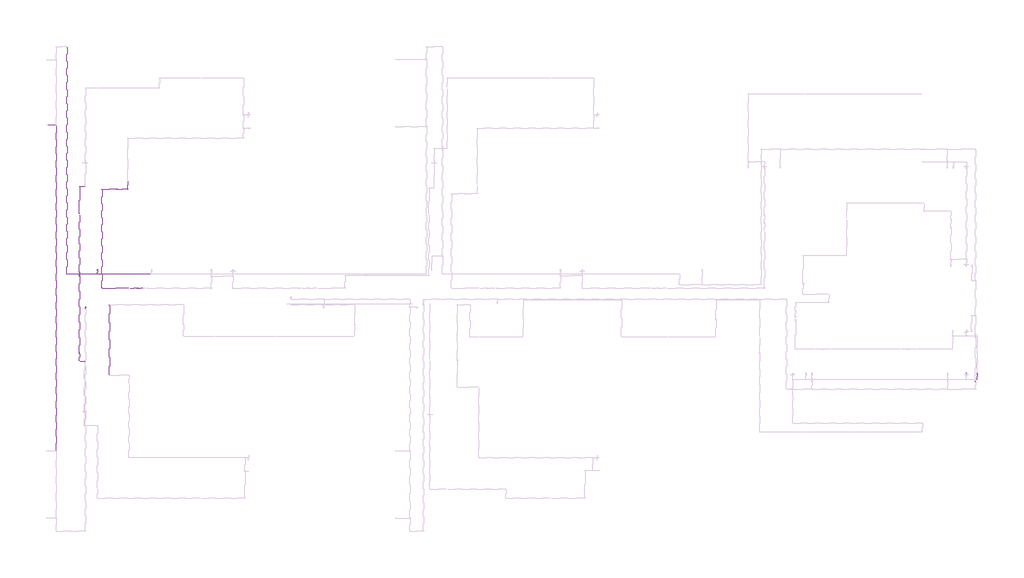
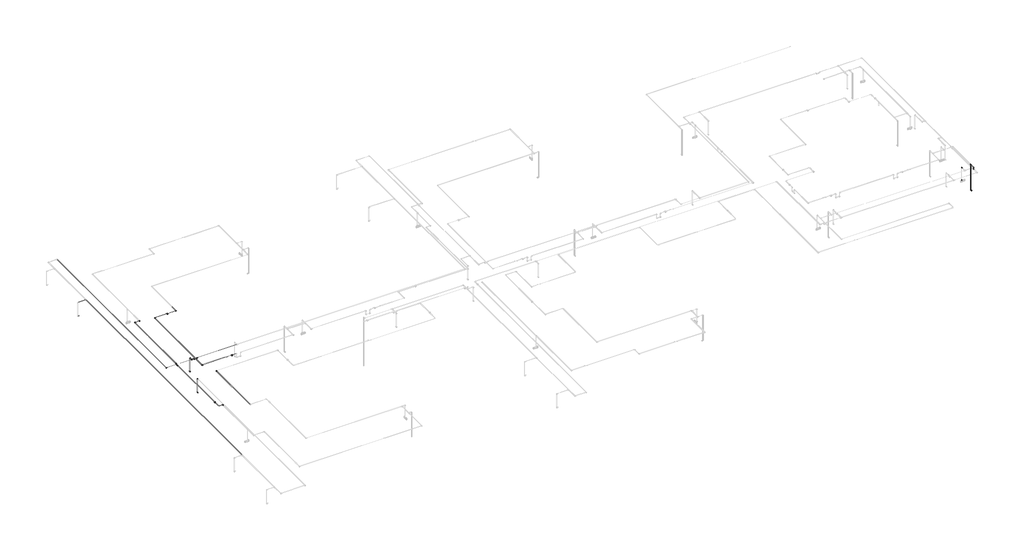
# One storey, part 4 of 13: 35 cable carrier segments, 27 cable carrier fittings, 3 alarms.
"""IFC4 building model written with IfcOpenShell, lengths in millimetres."""

from ifc_helpers import new_model, si_unit, point, frame, frame_2d, origin, place, context, project, spatial, circle_curve, trimmed, segment, composite_curve, outline, extrude, transform, mapped, element, save
from components import alarm_a2247946, cable_carrier_fitting_69f1a801, cable_carrier_fitting_8122f9af, cable_carrier_fitting_8fd13dfc

model = new_model("IFC4")

# Units and contexts
model_context = context("Model", 3, world=origin())
ifc_project = project(units=[si_unit("LENGTHUNIT", "METRE", prefix="MILLI")], contexts=[model_context])

# Site, building, storey
site = spatial("IfcSite", under=ifc_project)
building = spatial("IfcBuilding", under=site)
storey = spatial("IfcBuildingStorey", under=building, Name="2 этаж", Elevation=3500.0)

# Alarms
placement = place(None, origin())
alarm_shape = alarm_a2247946(model_context)
element("IfcAlarm", 1, ObjectType="RBZ_ИзоляторШлейфа_Рубеж_ИЗ-1_прот.R3(плоскость) : ИЗ-1 прот.R3", at=placement, inside=storey, context=model_context, shape_type="MappedRepresentation", body=[
    mapped(alarm_shape, transform((-32282.8004175, 5164.6370105, 6997.7), x_axis=(1.0, 0.0, 0.0), y_axis=(0.0, 1.0, 0.0), z_axis=(0.0, 0.0, 1.0))),
])
element("IfcAlarm", 2, ObjectType="RBZ_ИзоляторШлейфа_Рубеж_ИЗ-1_прот.R3(плоскость) : ИЗ-1 прот.R3", at=placement, inside=storey, context=model_context, shape_type="MappedRepresentation", body=[
    mapped(alarm_shape, transform((-35892.3240021, 1119.4902423, 6995.4), x_axis=(1.0, 0.0, 0.0), y_axis=(0.0, 1.0, 0.0), z_axis=(0.0, 0.0, 1.0))),
])
element("IfcAlarm", 3, ObjectType="RBZ_ИзоляторШлейфа_Рубеж_ИЗ-1_прот.R3(плоскость) : ИЗ-1 прот.R3", at=placement, inside=storey, context=model_context, shape_type="MappedRepresentation", body=[
    mapped(alarm_shape, transform((-33572.3240021, 11298.1370105, 6997.7), x_axis=(1.0, 0.0, 0.0), y_axis=(0.0, 1.0, 0.0), z_axis=(0.0, 0.0, 1.0))),
])

# Cable carrier fittings
cable_carrier_fitting_shape = cable_carrier_fitting_69f1a801(model_context)
element("IfcCableCarrierFitting", 4, ObjectType="ADSK_Поворот_Минимальный размер : Неспецифицируемый", at=placement, inside=storey, context=model_context, shape_type="MappedRepresentation", body=[
    mapped(cable_carrier_fitting_shape, transform((-35584.8240021, 619.6370105, 6984.65), x_axis=(0.0, 1.0, 0.0), y_axis=(-1.0, 0.0, 0.0), z_axis=(0.0, 0.0, 1.0))),
])
element("IfcCableCarrierFitting", 5, ObjectType="ADSK_Поворот_Минимальный размер : Неспецифицируемый", at=placement, inside=storey, context=model_context, shape_type="MappedRepresentation", body=[
    mapped(cable_carrier_fitting_shape, transform((-35529.8240021, 11476.1370105, 6986.95), x_axis=(1.0, 0.0, 0.0), y_axis=(0.0, 1.0, 0.0), z_axis=(0.0, 0.0, 1.0))),
])
element("IfcCableCarrierFitting", 6, ObjectType="ADSK_Поворот_Минимальный размер : Неспецифицируемый", at=placement, inside=storey, context=model_context, shape_type="MappedRepresentation", body=[
    mapped(cable_carrier_fitting_shape, transform((-35892.3240021, 11476.1370105, 6986.95), x_axis=(-1.0, 0.0, 0.0), y_axis=(0.0, -1.0, 0.0), z_axis=(0.0, 0.0, 1.0))),
])
element("IfcCableCarrierFitting", 7, ObjectType="ADSK_Поворот_Минимальный размер : Неспецифицируемый", at=placement, inside=storey, context=model_context, shape_type="MappedRepresentation", body=[
    mapped(cable_carrier_fitting_shape, transform((-32907.3240021, 11298.1370105, 6986.95), x_axis=(1.0, 0.0, 0.0), y_axis=(0.0, 1.0, 0.0), z_axis=(0.0, 0.0, 1.0))),
])
element("IfcCableCarrierFitting", 8, ObjectType="ADSK_Поворот_Минимальный размер : Неспецифицируемый", at=placement, inside=storey, context=model_context, shape_type="MappedRepresentation", body=[
    mapped(cable_carrier_fitting_shape, transform((-34037.3240021, 4135.4271104, 6986.95), x_axis=(-1.0, 0.0, 0.0), y_axis=(0.0, -1.0, 0.0), z_axis=(0.0, 0.0, 1.0))),
])
element("IfcCableCarrierFitting", 9, ObjectType="ADSK_Поворот_Минимальный размер : Неспецифицируемый", at=placement, inside=storey, context=model_context, shape_type="MappedRepresentation", body=[
    mapped(cable_carrier_fitting_shape, transform((-34507.3240021, 5164.6370105, 6986.95), x_axis=(0.0, -1.0, 0.0), y_axis=(1.0, 0.0, 0.0), z_axis=(0.0, 0.0, 1.0))),
])
element("IfcCableCarrierFitting", 10, ObjectType="ADSK_Поворот_Минимальный размер : Неспецифицируемый", at=placement, inside=storey, context=model_context, shape_type="MappedRepresentation", body=[
    mapped(cable_carrier_fitting_shape, transform((-34507.3240021, 11298.1370105, 6986.95), x_axis=(-1.0, 0.0, 0.0), y_axis=(0.0, -1.0, 0.0), z_axis=(0.0, 0.0, 1.0))),
])
element("IfcCableCarrierFitting", 11, ObjectType="ADSK_Поворот_Минимальный размер : Неспецифицируемый", at=placement, inside=storey, context=model_context, shape_type="MappedRepresentation", body=[
    mapped(cable_carrier_fitting_shape, transform((-36669.8240021, 6037.6221207, 6990.0), x_axis=(0.0, -1.0, 0.0), y_axis=(1.0, 0.0, 0.0), z_axis=(0.0, 0.0, 1.0))),
])
element("IfcCableCarrierFitting", 12, ObjectType="ADSK_Поворот_Минимальный размер : Неспецифицируемый", at=placement, inside=storey, context=model_context, shape_type="MappedRepresentation", body=[
    mapped(cable_carrier_fitting_shape, transform((-34782.7240021, 6252.4372049, 5897.4861504), x_axis=(0.0, -1.0, 0.0), y_axis=(0.0, 0.0, 1.0), z_axis=(-1.0, 0.0, 0.0))),
])
element("IfcCableCarrierFitting", 13, ObjectType="ADSK_Поворот_Минимальный размер : Неспецифицируемый", at=placement, inside=storey, context=model_context, shape_type="MappedRepresentation", body=[
    mapped(cable_carrier_fitting_shape, transform((-34782.7240021, 6252.4372049, 6990.0), x_axis=(0.0, 0.0, 1.0), y_axis=(0.0, -1.0, 0.0), z_axis=(1.0, 0.0, 0.0))),
])
element("IfcCableCarrierFitting", 14, ObjectType="ADSK_Поворот_Минимальный размер : Неспецифицируемый", at=placement, inside=storey, context=model_context, shape_type="MappedRepresentation", body=[
    mapped(cable_carrier_fitting_shape, transform((-35532.7240021, 3996.8368161, 5897.4861504), x_axis=(0.0, 1.0, 0.0), y_axis=(0.0, 0.0, 1.0), z_axis=(1.0, 0.0, 0.0))),
])
element("IfcCableCarrierFitting", 15, ObjectType="ADSK_Поворот_Минимальный размер : Неспецифицируемый", at=placement, inside=storey, context=model_context, shape_type="MappedRepresentation", body=[
    mapped(cable_carrier_fitting_shape, transform((-35532.7240021, 3996.8368161, 6990.0), x_axis=(0.0, 0.0, 1.0), y_axis=(0.0, -1.0, 0.0), z_axis=(1.0, 0.0, 0.0))),
])
element("IfcCableCarrierFitting", 16, ObjectType="ADSK_Поворот_Минимальный размер : Неспецифицируемый", at=placement, inside=storey, context=model_context, shape_type="MappedRepresentation", body=[
    mapped(cable_carrier_fitting_shape, transform((19112.6759979, -98.1631839, 6000.0), x_axis=(0.0, 1.0, 0.0), y_axis=(0.0, 0.0, 1.0), z_axis=(1.0, 0.0, 0.0))),
])
element("IfcCableCarrierFitting", 17, ObjectType="ADSK_Поворот_Минимальный размер : Неспецифицируемый", at=placement, inside=storey, context=model_context, shape_type="MappedRepresentation", body=[
    mapped(cable_carrier_fitting_shape, transform((19112.6759979, -98.1631839, 6986.95), x_axis=(0.0, 0.0, 1.0), y_axis=(0.0, -1.0, 0.0), z_axis=(1.0, 0.0, 0.0))),
])
element("IfcCableCarrierFitting", 18, ObjectType="ADSK_Поворот_Минимальный размер : Неспецифицируемый", at=placement, inside=storey, context=model_context, shape_type="MappedRepresentation", body=[
    mapped(cable_carrier_fitting_shape, transform((19782.6759979, -505.3629895, 6986.95), x_axis=(1.0, 0.0, 0.0), y_axis=(0.0, 1.0, 0.0), z_axis=(0.0, 0.0, 1.0))),
])
element("IfcCableCarrierFitting", 19, ObjectType="ADSK_Поворот_Минимальный размер : Неспецифицируемый", at=placement, inside=storey, context=model_context, shape_type="MappedRepresentation", body=[
    mapped(cable_carrier_fitting_shape, transform((19782.6759979, -98.1631839, 5000.0), x_axis=(0.0, 1.0, 0.0), y_axis=(0.0, 0.0, 1.0), z_axis=(1.0, 0.0, 0.0))),
])
cable_carrier_fitting_2_shape = cable_carrier_fitting_8122f9af(model_context)
element("IfcCableCarrierFitting", 20, ObjectType="ADSK_Поворот_Минимальный размер : Неспецифицируемый", at=placement, inside=storey, context=model_context, shape_type="MappedRepresentation", body=[
    mapped(cable_carrier_fitting_2_shape, transform((-34623.8962734, 6037.6221207, 6990.0), x_axis=(1.0, 0.0, 0.0), y_axis=(0.0, 0.0, -1.0), z_axis=(0.0, 1.0, 0.0))),
])
element("IfcCableCarrierFitting", 21, ObjectType="ADSK_Поворот_Минимальный размер : Неспецифицируемый", at=placement, inside=storey, context=model_context, shape_type="MappedRepresentation", body=[
    mapped(cable_carrier_fitting_2_shape, transform((-34573.8962734, 6037.6221207, 6940.0), x_axis=(0.7071067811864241, 0.0, -0.7071067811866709), y_axis=(0.7071067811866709, 0.0, 0.7071067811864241), z_axis=(0.0, -1.0, 0.0))),
])
element("IfcCableCarrierFitting", 22, ObjectType="ADSK_Поворот_Минимальный размер : Неспецифицируемый", at=placement, inside=storey, context=model_context, shape_type="MappedRepresentation", body=[
    mapped(cable_carrier_fitting_2_shape, transform((-34440.7517309, 6037.6221207, 6940.0), x_axis=(1.0, 0.0, 0.0), y_axis=(0.0, 0.0, 1.0), z_axis=(0.0, -1.0, 0.0))),
])
element("IfcCableCarrierFitting", 23, ObjectType="ADSK_Поворот_Минимальный размер : Неспецифицируемый", at=placement, inside=storey, context=model_context, shape_type="MappedRepresentation", body=[
    mapped(cable_carrier_fitting_2_shape, transform((-34390.7517309, 6037.6221207, 6990.0), x_axis=(0.7071067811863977, 0.0, 0.7071067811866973), y_axis=(0.7071067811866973, 0.0, -0.7071067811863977), z_axis=(0.0, 1.0, 0.0))),
])
element("IfcCableCarrierFitting", 24, ObjectType="ADSK_Поворот_Минимальный размер : Неспецифицируемый", at=placement, inside=storey, context=model_context, shape_type="MappedRepresentation", body=[
    mapped(cable_carrier_fitting_2_shape, transform((-35892.3240021, 6154.1943919, 6990.0), x_axis=(0.0, -1.0, 0.0), y_axis=(0.0, 0.0, -1.0), z_axis=(1.0, 0.0, 0.0))),
])
element("IfcCableCarrierFitting", 25, ObjectType="ADSK_Поворот_Минимальный размер : Неспецифицируемый", at=placement, inside=storey, context=model_context, shape_type="MappedRepresentation", body=[
    mapped(cable_carrier_fitting_2_shape, transform((-35892.3240021, 6104.1943919, 6940.0), x_axis=(0.0, -0.7071067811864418, -0.7071067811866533), y_axis=(0.0, -0.7071067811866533, 0.7071067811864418), z_axis=(-1.0, 0.0, 0.0))),
])
element("IfcCableCarrierFitting", 26, ObjectType="ADSK_Поворот_Минимальный размер : Неспецифицируемый", at=placement, inside=storey, context=model_context, shape_type="MappedRepresentation", body=[
    mapped(cable_carrier_fitting_2_shape, transform((-35892.3240021, 5971.0498494, 6940.0), x_axis=(0.0, -1.0, 0.0), y_axis=(0.0, 0.0, 1.0), z_axis=(-1.0, 0.0, 0.0))),
])
element("IfcCableCarrierFitting", 27, ObjectType="ADSK_Поворот_Минимальный размер : Неспецифицируемый", at=placement, inside=storey, context=model_context, shape_type="MappedRepresentation", body=[
    mapped(cable_carrier_fitting_2_shape, transform((-35892.3240021, 5921.0498494, 6990.0), x_axis=(0.0, -0.7071067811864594, 0.7071067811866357), y_axis=(0.0, -0.7071067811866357, -0.7071067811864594), z_axis=(1.0, 0.0, 0.0))),
])
element("IfcCableCarrierFitting", 28, ObjectType="ADSK_Поворот_Минимальный размер : Неспецифицируемый", at=placement, inside=storey, context=model_context, shape_type="MappedRepresentation", body=[
    mapped(cable_carrier_fitting_2_shape, transform((19682.6759979, -621.9352607, 6990.0), x_axis=(0.0, -0.7071067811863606, 0.7071067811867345), y_axis=(0.0, -0.7071067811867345, -0.7071067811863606), z_axis=(1.0, 0.0, 0.0))),
])
cable_carrier_fitting_3_shape = cable_carrier_fitting_8fd13dfc(model_context)
element("IfcCableCarrierFitting", 29, ObjectType="ADSK_Тройник : ПВХ", at=placement, inside=storey, context=model_context, shape_type="MappedRepresentation", body=[
    mapped(cable_carrier_fitting_3_shape, transform((-34782.7240021, 6037.6221207, 6990.0), x_axis=(-1.0, 0.0, 0.0), y_axis=(0.0, -1.0, 0.0), z_axis=(0.0, 0.0, 1.0))),
])
element("IfcCableCarrierFitting", 30, ObjectType="ADSK_Тройник : ПВХ", at=placement, inside=storey, context=model_context, shape_type="MappedRepresentation", body=[
    mapped(cable_carrier_fitting_3_shape, transform((19782.6759979, -98.1631839, 6986.95), x_axis=(0.0, -1.0, 0.0), y_axis=(0.0, 0.0, 1.0), z_axis=(-1.0, 0.0, 0.0))),
])

# Cable carrier segments
element("IfcCableCarrierSegment", 31, ObjectType="Гофрированная труба", at=placement, inside=storey, context=model_context, shape_type="SweptSolid", body=[
    extrude(outline(composite_curve([segment(trimmed(circle_curve(frame_2d((619.6370105, 6984.65)), 10.0), [point((609.6370105, 6984.65))], [point((619.6370105, 6994.65))], False, "CARTESIAN"), True, "CONTINUOUS"), segment(trimmed(circle_curve(frame_2d((619.6370105, 6984.65)), 10.0), [point((619.6370105, 6994.65))], [point((629.6370105, 6984.65))], False, "CARTESIAN"), True, "CONTINUOUS"), segment(trimmed(circle_curve(frame_2d((619.6370105, 6984.65)), 10.0), [point((629.6370105, 6984.65))], [point((619.6370105, 6974.65))], False, "CARTESIAN"), True, "CONTINUOUS"), segment(trimmed(circle_curve(frame_2d((619.6370105, 6984.65)), 10.0), [point((619.6370105, 6974.65))], [point((609.6370105, 6984.65))], False, "CARTESIAN"), True, "CONTINUOUS")], self_intersect=False)), frame((-35845.8240021, 0.0, 0.0), z_axis=(1.0, 0.0, 0.0), x_axis=(0.0, 1.0, 0.0)), (0.0, 0.0, 1.0), 240.0),
])
element("IfcCableCarrierSegment", 32, ObjectType="Гофрированная труба", at=placement, inside=storey, context=model_context, shape_type="SweptSolid", body=[
    extrude(outline(composite_curve([segment(trimmed(circle_curve(frame_2d((6940.0, -35892.3240021)), 10.0), [point((6940.0, -35902.3240021))], [point((6930.0, -35892.3240021))], False, "CARTESIAN"), True, "CONTINUOUS"), segment(trimmed(circle_curve(frame_2d((6940.0, -35892.3240021)), 10.0), [point((6930.0, -35892.3240021))], [point((6940.0, -35882.3240021))], False, "CARTESIAN"), True, "CONTINUOUS"), segment(trimmed(circle_curve(frame_2d((6940.0, -35892.3240021)), 10.0), [point((6940.0, -35882.3240021))], [point((6950.0, -35892.3240021))], False, "CARTESIAN"), True, "CONTINUOUS"), segment(trimmed(circle_curve(frame_2d((6940.0, -35892.3240021)), 10.0), [point((6950.0, -35892.3240021))], [point((6940.0, -35902.3240021))], False, "CARTESIAN"), True, "CONTINUOUS")], self_intersect=False)), frame((0.0, 5980.3341207, 0.0), z_axis=(0.0, 1.0, 0.0), x_axis=(0.0, 0.0, 1.0)), (0.0, 0.0, 1.0), 114.576),
])
element("IfcCableCarrierSegment", 33, ObjectType="Гофрированная труба", at=placement, inside=storey, context=model_context, shape_type="SweptSolid", body=[
    extrude(outline(composite_curve([segment(trimmed(circle_curve(frame_2d((6986.95, -35892.3240021)), 10.0), [point((6986.95, -35902.3240021))], [point((6976.95, -35892.3240021))], False, "CARTESIAN"), True, "CONTINUOUS"), segment(trimmed(circle_curve(frame_2d((6986.95, -35892.3240021)), 10.0), [point((6976.95, -35892.3240021))], [point((6986.95, -35882.3240021))], False, "CARTESIAN"), True, "CONTINUOUS"), segment(trimmed(circle_curve(frame_2d((6986.95, -35892.3240021)), 10.0), [point((6986.95, -35882.3240021))], [point((6996.95, -35892.3240021))], False, "CARTESIAN"), True, "CONTINUOUS"), segment(trimmed(circle_curve(frame_2d((6986.95, -35892.3240021)), 10.0), [point((6996.95, -35892.3240021))], [point((6986.95, -35902.3240021))], False, "CARTESIAN"), True, "CONTINUOUS")], self_intersect=False)), frame((0.0, 9776.1370105, 0.0), z_axis=(0.0, 1.0, 0.0), x_axis=(0.0, 0.0, 1.0)), (0.0, 0.0, 1.0), 1679.0),
])
element("IfcCableCarrierSegment", 34, ObjectType="Гофрированная труба", at=placement, inside=storey, context=model_context, shape_type="SweptSolid", body=[
    extrude(outline(composite_curve([segment(trimmed(circle_curve(frame_2d((11476.1370105, 6986.95)), 10.0), [point((11486.1370105, 6986.95))], [point((11476.1370105, 6976.95))], False, "CARTESIAN"), True, "CONTINUOUS"), segment(trimmed(circle_curve(frame_2d((11476.1370105, 6986.95)), 10.0), [point((11476.1370105, 6976.95))], [point((11466.1370105, 6986.95))], False, "CARTESIAN"), True, "CONTINUOUS"), segment(trimmed(circle_curve(frame_2d((11476.1370105, 6986.95)), 10.0), [point((11466.1370105, 6986.95))], [point((11476.1370105, 6996.95))], False, "CARTESIAN"), True, "CONTINUOUS"), segment(trimmed(circle_curve(frame_2d((11476.1370105, 6986.95)), 10.0), [point((11476.1370105, 6996.95))], [point((11486.1370105, 6986.95))], False, "CARTESIAN"), True, "CONTINUOUS")], self_intersect=False)), frame((-35871.3240021, 0.0, 0.0), z_axis=(1.0, 0.0, 0.0), x_axis=(0.0, 1.0, 0.0)), (0.0, 0.0, 1.0), 320.5),
])
element("IfcCableCarrierSegment", 35, ObjectType="Гофрированная труба", at=placement, inside=storey, context=model_context, shape_type="SweptSolid", body=[
    extrude(outline(composite_curve([segment(trimmed(circle_curve(frame_2d((6986.95, -32907.3240021)), 10.0), [point((6986.95, -32917.3240021))], [point((6976.95, -32907.3240021))], False, "CARTESIAN"), True, "CONTINUOUS"), segment(trimmed(circle_curve(frame_2d((6986.95, -32907.3240021)), 10.0), [point((6976.95, -32907.3240021))], [point((6986.95, -32897.3240021))], False, "CARTESIAN"), True, "CONTINUOUS"), segment(trimmed(circle_curve(frame_2d((6986.95, -32907.3240021)), 10.0), [point((6986.95, -32897.3240021))], [point((6996.95, -32907.3240021))], False, "CARTESIAN"), True, "CONTINUOUS"), segment(trimmed(circle_curve(frame_2d((6986.95, -32907.3240021)), 10.0), [point((6996.95, -32907.3240021))], [point((6986.95, -32917.3240021))], False, "CARTESIAN"), True, "CONTINUOUS")], self_intersect=False)), frame((0.0, 11319.1370105, 0.0), z_axis=(0.0, 1.0, 0.0), x_axis=(0.0, 0.0, 1.0)), (0.0, 0.0, 1.0), 479.0),
])
element("IfcCableCarrierSegment", 36, ObjectType="Гофрированная труба", at=placement, inside=storey, context=model_context, shape_type="SweptSolid", body=[
    extrude(outline(composite_curve([segment(trimmed(circle_curve(frame_2d((11298.1370105, 6986.95)), 10.0), [point((11288.1370105, 6986.95))], [point((11298.1370105, 6996.95))], False, "CARTESIAN"), True, "CONTINUOUS"), segment(trimmed(circle_curve(frame_2d((11298.1370105, 6986.95)), 10.0), [point((11298.1370105, 6996.95))], [point((11308.1370105, 6986.95))], False, "CARTESIAN"), True, "CONTINUOUS"), segment(trimmed(circle_curve(frame_2d((11298.1370105, 6986.95)), 10.0), [point((11308.1370105, 6986.95))], [point((11298.1370105, 6976.95))], False, "CARTESIAN"), True, "CONTINUOUS"), segment(trimmed(circle_curve(frame_2d((11298.1370105, 6986.95)), 10.0), [point((11298.1370105, 6976.95))], [point((11288.1370105, 6986.95))], False, "CARTESIAN"), True, "CONTINUOUS")], self_intersect=False)), frame((-34486.3240021, 0.0, 0.0), z_axis=(1.0, 0.0, 0.0), x_axis=(0.0, 1.0, 0.0)), (0.0, 0.0, 1.0), 888.0),
])
element("IfcCableCarrierSegment", 37, ObjectType="Гофрированная труба", at=placement, inside=storey, context=model_context, shape_type="SweptSolid", body=[
    extrude(outline(composite_curve([segment(trimmed(circle_curve(frame_2d((6986.95, -34507.3240021)), 10.0), [point((6986.95, -34497.3240021))], [point((6996.95, -34507.3240021))], False, "CARTESIAN"), True, "CONTINUOUS"), segment(trimmed(circle_curve(frame_2d((6986.95, -34507.3240021)), 10.0), [point((6996.95, -34507.3240021))], [point((6986.95, -34517.3240021))], False, "CARTESIAN"), True, "CONTINUOUS"), segment(trimmed(circle_curve(frame_2d((6986.95, -34507.3240021)), 10.0), [point((6986.95, -34517.3240021))], [point((6976.95, -34507.3240021))], False, "CARTESIAN"), True, "CONTINUOUS"), segment(trimmed(circle_curve(frame_2d((6986.95, -34507.3240021)), 10.0), [point((6976.95, -34507.3240021))], [point((6986.95, -34497.3240021))], False, "CARTESIAN"), True, "CONTINUOUS")], self_intersect=False)), frame((0.0, 5185.6370105, 0.0), z_axis=(0.0, 1.0, 0.0), x_axis=(0.0, 0.0, 1.0)), (0.0, 0.0, 1.0), 6091.5),
])
element("IfcCableCarrierSegment", 38, ObjectType="Гофрированная труба", at=placement, inside=storey, context=model_context, shape_type="SweptSolid", body=[
    extrude(outline(composite_curve([segment(trimmed(circle_curve(frame_2d((6986.95, -34037.3240021)), 10.0), [point((6986.95, -34027.3240021))], [point((6996.95, -34037.3240021))], False, "CARTESIAN"), True, "CONTINUOUS"), segment(trimmed(circle_curve(frame_2d((6986.95, -34037.3240021)), 10.0), [point((6996.95, -34037.3240021))], [point((6986.95, -34047.3240021))], False, "CARTESIAN"), True, "CONTINUOUS"), segment(trimmed(circle_curve(frame_2d((6986.95, -34037.3240021)), 10.0), [point((6986.95, -34047.3240021))], [point((6976.95, -34037.3240021))], False, "CARTESIAN"), True, "CONTINUOUS"), segment(trimmed(circle_curve(frame_2d((6986.95, -34037.3240021)), 10.0), [point((6976.95, -34037.3240021))], [point((6986.95, -34027.3240021))], False, "CARTESIAN"), True, "CONTINUOUS")], self_intersect=False)), frame((0.0, -212.8629895, 0.0), z_axis=(0.0, 1.0, 0.0), x_axis=(0.0, 0.0, 1.0)), (0.0, 0.0, 1.0), 4327.2900999),
])
element("IfcCableCarrierSegment", 39, ObjectType="Гофрированная труба", at=placement, inside=storey, context=model_context, shape_type="SweptSolid", body=[
    extrude(outline(composite_curve([segment(trimmed(circle_curve(frame_2d((5164.6370105, 6986.95)), 10.0), [point((5174.6370105, 6986.95))], [point((5164.6370105, 6976.95))], False, "CARTESIAN"), True, "CONTINUOUS"), segment(trimmed(circle_curve(frame_2d((5164.6370105, 6986.95)), 10.0), [point((5164.6370105, 6976.95))], [point((5154.6370105, 6986.95))], False, "CARTESIAN"), True, "CONTINUOUS"), segment(trimmed(circle_curve(frame_2d((5164.6370105, 6986.95)), 10.0), [point((5154.6370105, 6986.95))], [point((5164.6370105, 6996.95))], False, "CARTESIAN"), True, "CONTINUOUS"), segment(trimmed(circle_curve(frame_2d((5164.6370105, 6986.95)), 10.0), [point((5164.6370105, 6996.95))], [point((5174.6370105, 6986.95))], False, "CARTESIAN"), True, "CONTINUOUS")], self_intersect=False)), frame((-34486.3240021, 0.0, 0.0), z_axis=(1.0, 0.0, 0.0), x_axis=(0.0, 1.0, 0.0)), (0.0, 0.0, 1.0), 1657.5),
])
element("IfcCableCarrierSegment", 40, ObjectType="Гофрированная труба", at=placement, inside=storey, context=model_context, shape_type="SweptSolid", body=[
    extrude(outline(composite_curve([segment(trimmed(circle_curve(frame_2d((5164.6370105, 6986.95)), 10.0), [point((5174.6370105, 6986.95))], [point((5164.6370105, 6976.95))], False, "CARTESIAN"), True, "CONTINUOUS"), segment(trimmed(circle_curve(frame_2d((5164.6370105, 6986.95)), 10.0), [point((5164.6370105, 6976.95))], [point((5154.6370105, 6986.95))], False, "CARTESIAN"), True, "CONTINUOUS"), segment(trimmed(circle_curve(frame_2d((5164.6370105, 6986.95)), 10.0), [point((5154.6370105, 6986.95))], [point((5164.6370105, 6996.95))], False, "CARTESIAN"), True, "CONTINUOUS"), segment(trimmed(circle_curve(frame_2d((5164.6370105, 6986.95)), 10.0), [point((5164.6370105, 6996.95))], [point((5174.6370105, 6986.95))], False, "CARTESIAN"), True, "CONTINUOUS")], self_intersect=False)), frame((-32735.8240021, 0.0, 0.0), z_axis=(1.0, 0.0, 0.0), x_axis=(0.0, 1.0, 0.0)), (0.0, 0.0, 1.0), 427.0235846),
])
element("IfcCableCarrierSegment", 41, ObjectType="Гофрированная труба", at=placement, inside=storey, context=model_context, shape_type="SweptSolid", body=[
    extrude(outline(composite_curve([segment(trimmed(circle_curve(frame_2d((5164.6370105, 6986.95)), 10.0), [point((5174.6370105, 6986.95))], [point((5164.6370105, 6976.95))], False, "CARTESIAN"), True, "CONTINUOUS"), segment(trimmed(circle_curve(frame_2d((5164.6370105, 6986.95)), 10.0), [point((5164.6370105, 6976.95))], [point((5154.6370105, 6986.95))], False, "CARTESIAN"), True, "CONTINUOUS"), segment(trimmed(circle_curve(frame_2d((5164.6370105, 6986.95)), 10.0), [point((5154.6370105, 6986.95))], [point((5164.6370105, 6996.95))], False, "CARTESIAN"), True, "CONTINUOUS"), segment(trimmed(circle_curve(frame_2d((5164.6370105, 6986.95)), 10.0), [point((5164.6370105, 6996.95))], [point((5174.6370105, 6986.95))], False, "CARTESIAN"), True, "CONTINUOUS")], self_intersect=False)), frame((-32256.8004175, 0.0, 0.0), z_axis=(1.0, 0.0, 0.0), x_axis=(0.0, 1.0, 0.0)), (0.0, 0.0, 1.0), 309.3001944),
])
element("IfcCableCarrierSegment", 42, ObjectType="Гофрированная труба", at=placement, inside=storey, context=model_context, shape_type="SweptSolid", body=[
    extrude(outline(composite_curve([segment(trimmed(circle_curve(frame_2d((6984.65, -35892.3240021)), 10.0), [point((6984.65, -35882.3240021))], [point((6994.65, -35892.3240021))], False, "CARTESIAN"), True, "CONTINUOUS"), segment(trimmed(circle_curve(frame_2d((6984.65, -35892.3240021)), 10.0), [point((6994.65, -35892.3240021))], [point((6984.65, -35902.3240021))], False, "CARTESIAN"), True, "CONTINUOUS"), segment(trimmed(circle_curve(frame_2d((6984.65, -35892.3240021)), 10.0), [point((6984.65, -35902.3240021))], [point((6974.65, -35892.3240021))], False, "CARTESIAN"), True, "CONTINUOUS"), segment(trimmed(circle_curve(frame_2d((6984.65, -35892.3240021)), 10.0), [point((6974.65, -35892.3240021))], [point((6984.65, -35882.3240021))], False, "CARTESIAN"), True, "CONTINUOUS")], self_intersect=False)), frame((0.0, 666.1370105, 0.0), z_axis=(0.0, 1.0, 0.0), x_axis=(0.0, 0.0, 1.0)), (0.0, 0.0, 1.0), 427.3532318),
])
element("IfcCableCarrierSegment", 43, ObjectType="Гофрированная труба", at=placement, inside=storey, context=model_context, shape_type="SweptSolid", body=[
    extrude(outline(composite_curve([segment(trimmed(circle_curve(frame_2d((11298.1370105, 6986.95)), 10.0), [point((11308.1370105, 6986.95))], [point((11298.1370105, 6976.95))], False, "CARTESIAN"), True, "CONTINUOUS"), segment(trimmed(circle_curve(frame_2d((11298.1370105, 6986.95)), 10.0), [point((11298.1370105, 6976.95))], [point((11288.1370105, 6986.95))], False, "CARTESIAN"), True, "CONTINUOUS"), segment(trimmed(circle_curve(frame_2d((11298.1370105, 6986.95)), 10.0), [point((11288.1370105, 6986.95))], [point((11298.1370105, 6996.95))], False, "CARTESIAN"), True, "CONTINUOUS"), segment(trimmed(circle_curve(frame_2d((11298.1370105, 6986.95)), 10.0), [point((11298.1370105, 6996.95))], [point((11308.1370105, 6986.95))], False, "CARTESIAN"), True, "CONTINUOUS")], self_intersect=False)), frame((-33546.3240021, 0.0, 0.0), z_axis=(1.0, 0.0, 0.0), x_axis=(0.0, 1.0, 0.0)), (0.0, 0.0, 1.0), 618.0),
])
element("IfcCableCarrierSegment", 44, ObjectType="Гофрированная труба", at=placement, inside=storey, context=model_context, shape_type="SweptSolid", body=[
    extrude(outline(composite_curve([segment(trimmed(circle_curve(frame_2d((6990.0, -36669.8240021)), 10.0), [point((6990.0, -36679.8240021))], [point((6980.0, -36669.8240021))], False, "CARTESIAN"), True, "CONTINUOUS"), segment(trimmed(circle_curve(frame_2d((6990.0, -36669.8240021)), 10.0), [point((6980.0, -36669.8240021))], [point((6990.0, -36659.8240021))], False, "CARTESIAN"), True, "CONTINUOUS"), segment(trimmed(circle_curve(frame_2d((6990.0, -36669.8240021)), 10.0), [point((6990.0, -36659.8240021))], [point((7000.0, -36669.8240021))], False, "CARTESIAN"), True, "CONTINUOUS"), segment(trimmed(circle_curve(frame_2d((6990.0, -36669.8240021)), 10.0), [point((7000.0, -36669.8240021))], [point((6990.0, -36679.8240021))], False, "CARTESIAN"), True, "CONTINUOUS")], self_intersect=False)), frame((0.0, 6058.6221207, 0.0), z_axis=(0.0, 1.0, 0.0), x_axis=(0.0, 0.0, 1.0)), (0.0, 0.0, 1.0), 14060.0148898),
])
element("IfcCableCarrierSegment", 45, ObjectType="Гофрированная труба", at=placement, inside=storey, context=model_context, shape_type="SweptSolid", body=[
    extrude(outline(composite_curve([segment(trimmed(circle_curve(frame_2d((15277.1370105, 6990.0)), 10.0), [point((15287.1370105, 6990.0))], [point((15277.1370105, 6980.0))], False, "CARTESIAN"), True, "CONTINUOUS"), segment(trimmed(circle_curve(frame_2d((15277.1370105, 6990.0)), 10.0), [point((15277.1370105, 6980.0))], [point((15267.1370105, 6990.0))], False, "CARTESIAN"), True, "CONTINUOUS"), segment(trimmed(circle_curve(frame_2d((15277.1370105, 6990.0)), 10.0), [point((15267.1370105, 6990.0))], [point((15277.1370105, 7000.0))], False, "CARTESIAN"), True, "CONTINUOUS"), segment(trimmed(circle_curve(frame_2d((15277.1370105, 6990.0)), 10.0), [point((15277.1370105, 7000.0))], [point((15287.1370105, 6990.0))], False, "CARTESIAN"), True, "CONTINUOUS")], self_intersect=False)), frame((-37908.5238077, 0.0, 0.0), z_axis=(1.0, 0.0, 0.0), x_axis=(0.0, 1.0, 0.0)), (0.0, 0.0, 1.0), 541.1998056),
])
element("IfcCableCarrierSegment", 46, ObjectType="Гофрированная труба", at=placement, inside=storey, context=model_context, shape_type="SweptSolid", body=[
    extrude(outline(composite_curve([segment(trimmed(circle_curve(frame_2d((15277.1370105, 5897.4861504)), 10.0), [point((15287.1370105, 5897.4861504))], [point((15277.1370105, 5887.4861504))], False, "CARTESIAN"), True, "CONTINUOUS"), segment(trimmed(circle_curve(frame_2d((15277.1370105, 5897.4861504)), 10.0), [point((15277.1370105, 5887.4861504))], [point((15267.1370105, 5897.4861504))], False, "CARTESIAN"), True, "CONTINUOUS"), segment(trimmed(circle_curve(frame_2d((15277.1370105, 5897.4861504)), 10.0), [point((15267.1370105, 5897.4861504))], [point((15277.1370105, 5907.4861504))], False, "CARTESIAN"), True, "CONTINUOUS"), segment(trimmed(circle_curve(frame_2d((15277.1370105, 5897.4861504)), 10.0), [point((15277.1370105, 5907.4861504))], [point((15287.1370105, 5897.4861504))], False, "CARTESIAN"), True, "CONTINUOUS")], self_intersect=False)), frame((-37908.5238077, 0.0, 0.0), z_axis=(1.0, 0.0, 0.0), x_axis=(0.0, 1.0, 0.0)), (0.0, 0.0, 1.0), 76.1998056),
])
element("IfcCableCarrierSegment", 47, ObjectType="Гофрированная труба", at=placement, inside=storey, context=model_context, shape_type="SweptSolid", body=[
    extrude(outline(composite_curve([segment(trimmed(circle_curve(frame_2d((6990.0, -37337.3240021)), 10.0), [point((6990.0, -37327.3240021))], [point((7000.0, -37337.3240021))], False, "CARTESIAN"), True, "CONTINUOUS"), segment(trimmed(circle_curve(frame_2d((6990.0, -37337.3240021)), 10.0), [point((7000.0, -37337.3240021))], [point((6990.0, -37347.3240021))], False, "CARTESIAN"), True, "CONTINUOUS"), segment(trimmed(circle_curve(frame_2d((6990.0, -37337.3240021)), 10.0), [point((6990.0, -37347.3240021))], [point((6980.0, -37337.3240021))], False, "CARTESIAN"), True, "CONTINUOUS"), segment(trimmed(circle_curve(frame_2d((6990.0, -37337.3240021)), 10.0), [point((6980.0, -37337.3240021))], [point((6990.0, -37327.3240021))], False, "CARTESIAN"), True, "CONTINUOUS")], self_intersect=False)), frame((0.0, -4900.3629895, 0.0), z_axis=(0.0, 1.0, 0.0), x_axis=(0.0, 0.0, 1.0)), (0.0, 0.0, 1.0), 20147.5),
])
element("IfcCableCarrierSegment", 48, ObjectType="Гофрированная труба", at=placement, inside=storey, context=model_context, shape_type="SweptSolid", body=[
    extrude(outline(composite_curve([segment(trimmed(circle_curve(frame_2d((6037.6221207, 6940.0)), 10.0), [point((6027.6221207, 6940.0))], [point((6037.6221207, 6950.0))], False, "CARTESIAN"), True, "CONTINUOUS"), segment(trimmed(circle_curve(frame_2d((6037.6221207, 6940.0)), 10.0), [point((6037.6221207, 6950.0))], [point((6047.6221207, 6940.0))], False, "CARTESIAN"), True, "CONTINUOUS"), segment(trimmed(circle_curve(frame_2d((6037.6221207, 6940.0)), 10.0), [point((6047.6221207, 6940.0))], [point((6037.6221207, 6930.0))], False, "CARTESIAN"), True, "CONTINUOUS"), segment(trimmed(circle_curve(frame_2d((6037.6221207, 6940.0)), 10.0), [point((6037.6221207, 6930.0))], [point((6027.6221207, 6940.0))], False, "CARTESIAN"), True, "CONTINUOUS")], self_intersect=False)), frame((-34564.6120021, 0.0, 0.0), z_axis=(1.0, 0.0, 0.0), x_axis=(0.0, 1.0, 0.0)), (0.0, 0.0, 1.0), 114.576),
])
element("IfcCableCarrierSegment", 49, ObjectType="Гофрированная труба", at=placement, inside=storey, context=model_context, shape_type="SweptSolid", body=[
    extrude(outline(composite_curve([segment(trimmed(circle_curve(frame_2d((6990.0, -34782.7240021)), 10.0), [point((6990.0, -34772.7240021))], [point((7000.0, -34782.7240021))], False, "CARTESIAN"), True, "CONTINUOUS"), segment(trimmed(circle_curve(frame_2d((6990.0, -34782.7240021)), 10.0), [point((7000.0, -34782.7240021))], [point((6990.0, -34792.7240021))], False, "CARTESIAN"), True, "CONTINUOUS"), segment(trimmed(circle_curve(frame_2d((6990.0, -34782.7240021)), 10.0), [point((6990.0, -34792.7240021))], [point((6980.0, -34782.7240021))], False, "CARTESIAN"), True, "CONTINUOUS"), segment(trimmed(circle_curve(frame_2d((6990.0, -34782.7240021)), 10.0), [point((6980.0, -34782.7240021))], [point((6990.0, -34772.7240021))], False, "CARTESIAN"), True, "CONTINUOUS")], self_intersect=False)), frame((0.0, 6067.6221207, 0.0), z_axis=(0.0, 1.0, 0.0), x_axis=(0.0, 0.0, 1.0)), (0.0, 0.0, 1.0), 163.8150842),
])
element("IfcCableCarrierSegment", 50, ObjectType="Гофрированная труба", at=placement, inside=storey, context=model_context, shape_type="SweptSolid", body=[
    extrude(outline(composite_curve([segment(trimmed(circle_curve(frame_2d((5897.4861504, -34782.7240021)), 10.0), [point((5897.4861504, -34792.7240021))], [point((5887.4861504, -34782.7240021))], False, "CARTESIAN"), True, "CONTINUOUS"), segment(trimmed(circle_curve(frame_2d((5897.4861504, -34782.7240021)), 10.0), [point((5887.4861504, -34782.7240021))], [point((5897.4861504, -34772.7240021))], False, "CARTESIAN"), True, "CONTINUOUS"), segment(trimmed(circle_curve(frame_2d((5897.4861504, -34782.7240021)), 10.0), [point((5897.4861504, -34772.7240021))], [point((5907.4861504, -34782.7240021))], False, "CARTESIAN"), True, "CONTINUOUS"), segment(trimmed(circle_curve(frame_2d((5897.4861504, -34782.7240021)), 10.0), [point((5907.4861504, -34782.7240021))], [point((5897.4861504, -34792.7240021))], False, "CARTESIAN"), True, "CONTINUOUS")], self_intersect=False)), frame((0.0, 6273.4372049, 0.0), z_axis=(0.0, 1.0, 0.0), x_axis=(0.0, 0.0, 1.0)), (0.0, 0.0, 1.0), 76.1998056),
])
element("IfcCableCarrierSegment", 51, ObjectType="Гофрированная труба", at=placement, inside=storey, context=model_context, shape_type="SweptSolid", body=[
    extrude(outline(composite_curve([segment(trimmed(circle_curve(frame_2d((-34782.7240021, 6252.4372049)), 10.0), [point((-34792.7240021, 6252.4372049))], [point((-34782.7240021, 6262.4372049))], False, "CARTESIAN"), True, "CONTINUOUS"), segment(trimmed(circle_curve(frame_2d((-34782.7240021, 6252.4372049)), 10.0), [point((-34782.7240021, 6262.4372049))], [point((-34772.7240021, 6252.4372049))], False, "CARTESIAN"), True, "CONTINUOUS"), segment(trimmed(circle_curve(frame_2d((-34782.7240021, 6252.4372049)), 10.0), [point((-34772.7240021, 6252.4372049))], [point((-34782.7240021, 6242.4372049))], False, "CARTESIAN"), True, "CONTINUOUS"), segment(trimmed(circle_curve(frame_2d((-34782.7240021, 6252.4372049)), 10.0), [point((-34782.7240021, 6242.4372049))], [point((-34792.7240021, 6252.4372049))], False, "CARTESIAN"), True, "CONTINUOUS")], self_intersect=False)), frame((0.0, 0.0, 5918.4861504), z_axis=(0.0, 0.0, 1.0), x_axis=(1.0, 0.0, 0.0)), (0.0, 0.0, 1.0), 1050.5138496),
])
element("IfcCableCarrierSegment", 52, ObjectType="Гофрированная труба", at=placement, inside=storey, context=model_context, shape_type="SweptSolid", body=[
    extrude(outline(composite_curve([segment(trimmed(circle_curve(frame_2d((6037.6221207, 6990.0)), 10.0), [point((6027.6221207, 6990.0))], [point((6037.6221207, 7000.0))], False, "CARTESIAN"), True, "CONTINUOUS"), segment(trimmed(circle_curve(frame_2d((6037.6221207, 6990.0)), 10.0), [point((6037.6221207, 7000.0))], [point((6047.6221207, 6990.0))], False, "CARTESIAN"), True, "CONTINUOUS"), segment(trimmed(circle_curve(frame_2d((6037.6221207, 6990.0)), 10.0), [point((6047.6221207, 6990.0))], [point((6037.6221207, 6980.0))], False, "CARTESIAN"), True, "CONTINUOUS"), segment(trimmed(circle_curve(frame_2d((6037.6221207, 6990.0)), 10.0), [point((6037.6221207, 6980.0))], [point((6027.6221207, 6990.0))], False, "CARTESIAN"), True, "CONTINUOUS")], self_intersect=False)), frame((-36648.8240021, 0.0, 0.0), z_axis=(1.0, 0.0, 0.0), x_axis=(0.0, 1.0, 0.0)), (0.0, 0.0, 1.0), 1836.1),
])
element("IfcCableCarrierSegment", 53, ObjectType="Гофрированная труба", at=placement, inside=storey, context=model_context, shape_type="SweptSolid", body=[
    extrude(outline(composite_curve([segment(trimmed(circle_curve(frame_2d((5897.4861504, -35532.7240021)), 10.0), [point((5897.4861504, -35522.7240021))], [point((5907.4861504, -35532.7240021))], False, "CARTESIAN"), True, "CONTINUOUS"), segment(trimmed(circle_curve(frame_2d((5897.4861504, -35532.7240021)), 10.0), [point((5907.4861504, -35532.7240021))], [point((5897.4861504, -35542.7240021))], False, "CARTESIAN"), True, "CONTINUOUS"), segment(trimmed(circle_curve(frame_2d((5897.4861504, -35532.7240021)), 10.0), [point((5897.4861504, -35542.7240021))], [point((5887.4861504, -35532.7240021))], False, "CARTESIAN"), True, "CONTINUOUS"), segment(trimmed(circle_curve(frame_2d((5897.4861504, -35532.7240021)), 10.0), [point((5887.4861504, -35532.7240021))], [point((5897.4861504, -35522.7240021))], False, "CARTESIAN"), True, "CONTINUOUS")], self_intersect=False)), frame((0.0, 3899.6370105, 0.0), z_axis=(0.0, 1.0, 0.0), x_axis=(0.0, 0.0, 1.0)), (0.0, 0.0, 1.0), 76.1998056),
])
element("IfcCableCarrierSegment", 54, ObjectType="Гофрированная труба", at=placement, inside=storey, context=model_context, shape_type="SweptSolid", body=[
    extrude(outline(composite_curve([segment(trimmed(circle_curve(frame_2d((-35532.7240021, 3996.8368161)), 10.0), [point((-35542.7240021, 3996.8368161))], [point((-35532.7240021, 4006.8368161))], False, "CARTESIAN"), True, "CONTINUOUS"), segment(trimmed(circle_curve(frame_2d((-35532.7240021, 3996.8368161)), 10.0), [point((-35532.7240021, 4006.8368161))], [point((-35522.7240021, 3996.8368161))], False, "CARTESIAN"), True, "CONTINUOUS"), segment(trimmed(circle_curve(frame_2d((-35532.7240021, 3996.8368161)), 10.0), [point((-35522.7240021, 3996.8368161))], [point((-35532.7240021, 3986.8368161))], False, "CARTESIAN"), True, "CONTINUOUS"), segment(trimmed(circle_curve(frame_2d((-35532.7240021, 3996.8368161)), 10.0), [point((-35532.7240021, 3986.8368161))], [point((-35542.7240021, 3996.8368161))], False, "CARTESIAN"), True, "CONTINUOUS")], self_intersect=False)), frame((0.0, 0.0, 5918.4861504), z_axis=(0.0, 0.0, 1.0), x_axis=(1.0, 0.0, 0.0)), (0.0, 0.0, 1.0), 1050.5138496),
])
element("IfcCableCarrierSegment", 55, ObjectType="Гофрированная труба", at=placement, inside=storey, context=model_context, shape_type="SweptSolid", body=[
    extrude(outline(composite_curve([segment(trimmed(circle_curve(frame_2d((5000.0, 19782.6759979)), 10.0), [point((5000.0, 19792.6759979))], [point((5010.0, 19782.6759979))], False, "CARTESIAN"), True, "CONTINUOUS"), segment(trimmed(circle_curve(frame_2d((5000.0, 19782.6759979)), 10.0), [point((5010.0, 19782.6759979))], [point((5000.0, 19772.6759979))], False, "CARTESIAN"), True, "CONTINUOUS"), segment(trimmed(circle_curve(frame_2d((5000.0, 19782.6759979)), 10.0), [point((5000.0, 19772.6759979))], [point((4990.0, 19782.6759979))], False, "CARTESIAN"), True, "CONTINUOUS"), segment(trimmed(circle_curve(frame_2d((5000.0, 19782.6759979)), 10.0), [point((4990.0, 19782.6759979))], [point((5000.0, 19792.6759979))], False, "CARTESIAN"), True, "CONTINUOUS")], self_intersect=False)), frame((0.0, -195.3629895, 0.0), z_axis=(0.0, 1.0, 0.0), x_axis=(0.0, 0.0, 1.0)), (0.0, 0.0, 1.0), 76.1998056),
])
element("IfcCableCarrierSegment", 56, ObjectType="Гофрированная труба", at=placement, inside=storey, context=model_context, shape_type="SweptSolid", body=[
    extrude(outline(composite_curve([segment(trimmed(circle_curve(frame_2d((19782.6759979, -98.1631839)), 10.0), [point((19772.6759979, -98.1631839))], [point((19782.6759979, -88.1631839))], False, "CARTESIAN"), True, "CONTINUOUS"), segment(trimmed(circle_curve(frame_2d((19782.6759979, -98.1631839)), 10.0), [point((19782.6759979, -88.1631839))], [point((19792.6759979, -98.1631839))], False, "CARTESIAN"), True, "CONTINUOUS"), segment(trimmed(circle_curve(frame_2d((19782.6759979, -98.1631839)), 10.0), [point((19792.6759979, -98.1631839))], [point((19782.6759979, -108.1631839))], False, "CARTESIAN"), True, "CONTINUOUS"), segment(trimmed(circle_curve(frame_2d((19782.6759979, -98.1631839)), 10.0), [point((19782.6759979, -108.1631839))], [point((19772.6759979, -98.1631839))], False, "CARTESIAN"), True, "CONTINUOUS")], self_intersect=False)), frame((0.0, 0.0, 5021.0), z_axis=(0.0, 0.0, 1.0), x_axis=(1.0, 0.0, 0.0)), (0.0, 0.0, 1.0), 1935.95),
])
element("IfcCableCarrierSegment", 57, ObjectType="Гофрированная труба", at=placement, inside=storey, context=model_context, shape_type="SweptSolid", body=[
    extrude(outline(composite_curve([segment(trimmed(circle_curve(frame_2d((6986.95, 19782.6759979)), 10.0), [point((6986.95, 19792.6759979))], [point((6996.95, 19782.6759979))], False, "CARTESIAN"), True, "CONTINUOUS"), segment(trimmed(circle_curve(frame_2d((6986.95, 19782.6759979)), 10.0), [point((6996.95, 19782.6759979))], [point((6986.95, 19772.6759979))], False, "CARTESIAN"), True, "CONTINUOUS"), segment(trimmed(circle_curve(frame_2d((6986.95, 19782.6759979)), 10.0), [point((6986.95, 19772.6759979))], [point((6976.95, 19782.6759979))], False, "CARTESIAN"), True, "CONTINUOUS"), segment(trimmed(circle_curve(frame_2d((6986.95, 19782.6759979)), 10.0), [point((6976.95, 19782.6759979))], [point((6986.95, 19792.6759979))], False, "CARTESIAN"), True, "CONTINUOUS")], self_intersect=False)), frame((0.0, -484.3629895, 0.0), z_axis=(0.0, 1.0, 0.0), x_axis=(0.0, 0.0, 1.0)), (0.0, 0.0, 1.0), 356.1998056),
])
element("IfcCableCarrierSegment", 58, ObjectType="Гофрированная труба", at=placement, inside=storey, context=model_context, shape_type="SweptSolid", body=[
    extrude(outline(composite_curve([segment(trimmed(circle_curve(frame_2d((6037.6221207, 6990.0)), 10.0), [point((6027.6221207, 6990.0))], [point((6037.6221207, 7000.0))], False, "CARTESIAN"), True, "CONTINUOUS"), segment(trimmed(circle_curve(frame_2d((6037.6221207, 6990.0)), 10.0), [point((6037.6221207, 7000.0))], [point((6047.6221207, 6990.0))], False, "CARTESIAN"), True, "CONTINUOUS"), segment(trimmed(circle_curve(frame_2d((6037.6221207, 6990.0)), 10.0), [point((6047.6221207, 6990.0))], [point((6037.6221207, 6980.0))], False, "CARTESIAN"), True, "CONTINUOUS"), segment(trimmed(circle_curve(frame_2d((6037.6221207, 6990.0)), 10.0), [point((6037.6221207, 6980.0))], [point((6027.6221207, 6990.0))], False, "CARTESIAN"), True, "CONTINUOUS")], self_intersect=False)), frame((-34752.7240021, 0.0, 0.0), z_axis=(1.0, 0.0, 0.0), x_axis=(0.0, 1.0, 0.0)), (0.0, 0.0, 1.0), 119.5434575),
])
element("IfcCableCarrierSegment", 59, ObjectType="Гофрированная труба", at=placement, inside=storey, context=model_context, shape_type="SweptSolid", body=[
    extrude(outline(composite_curve([segment(trimmed(circle_curve(frame_2d((0.0, -10.0)), 10.0), [point((0.0, -20.0))], [point((-10.0000001, -10.0))], False, "CARTESIAN"), True, "CONTINUOUS"), segment(trimmed(circle_curve(frame_2d((0.0, -10.0)), 10.0), [point((-10.0000001, -10.0))], [point((0.0, 0.0))], False, "CARTESIAN"), True, "CONTINUOUS"), segment(trimmed(circle_curve(frame_2d((0.0, -10.0)), 10.0), [point((0.0, 0.0))], [point((10.0, -10.0))], False, "CARTESIAN"), True, "CONTINUOUS"), segment(trimmed(circle_curve(frame_2d((0.0, -10.0)), 10.0), [point((10.0, -10.0))], [point((0.0, -20.0))], False, "CARTESIAN"), True, "CONTINUOUS")], self_intersect=False)), frame((-34580.4612445, 6047.6221207, 6946.5649712), z_axis=(-0.7071067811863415, 0.0, 0.7071067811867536), x_axis=(0.7071067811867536, 0.0, 0.7071067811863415)), (0.0, 0.0, 1.0), 52.1421356),
])
element("IfcCableCarrierSegment", 60, ObjectType="Гофрированная труба", at=placement, inside=storey, context=model_context, shape_type="SweptSolid", body=[
    extrude(outline(composite_curve([segment(trimmed(circle_curve(frame_2d((6037.6221207, 6990.0)), 10.0), [point((6027.6221207, 6990.0))], [point((6037.6221207, 7000.0))], False, "CARTESIAN"), True, "CONTINUOUS"), segment(trimmed(circle_curve(frame_2d((6037.6221207, 6990.0)), 10.0), [point((6037.6221207, 7000.0))], [point((6047.6221207, 6990.0))], False, "CARTESIAN"), True, "CONTINUOUS"), segment(trimmed(circle_curve(frame_2d((6037.6221207, 6990.0)), 10.0), [point((6047.6221207, 6990.0))], [point((6037.6221207, 6980.0))], False, "CARTESIAN"), True, "CONTINUOUS"), segment(trimmed(circle_curve(frame_2d((6037.6221207, 6990.0)), 10.0), [point((6037.6221207, 6980.0))], [point((6027.6221207, 6990.0))], False, "CARTESIAN"), True, "CONTINUOUS")], self_intersect=False)), frame((-34381.4674596, 0.0, 0.0), z_axis=(1.0, 0.0, 0.0), x_axis=(0.0, 1.0, 0.0)), (0.0, 0.0, 1.0), 2939.1434575),
])
element("IfcCableCarrierSegment", 61, ObjectType="Гофрированная труба", at=placement, inside=storey, context=model_context, shape_type="SweptSolid", body=[
    extrude(outline(composite_curve([segment(trimmed(circle_curve(frame_2d((0.0, 10.0)), 10.0), [point((0.0, 0.0))], [point((-10.0, 10.0))], False, "CARTESIAN"), True, "CONTINUOUS"), segment(trimmed(circle_curve(frame_2d((0.0, 10.0)), 10.0), [point((-10.0, 10.0))], [point((0.0, 20.0))], False, "CARTESIAN"), True, "CONTINUOUS"), segment(trimmed(circle_curve(frame_2d((0.0, 10.0)), 10.0), [point((0.0, 20.0))], [point((10.0000001, 10.0))], False, "CARTESIAN"), True, "CONTINUOUS"), segment(trimmed(circle_curve(frame_2d((0.0, 10.0)), 10.0), [point((10.0000001, 10.0))], [point((0.0, 0.0))], False, "CARTESIAN"), True, "CONTINUOUS")], self_intersect=False)), frame((-34434.1867597, 6027.6221207, 6946.5649712), z_axis=(0.7071067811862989, 0.0, 0.7071067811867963), x_axis=(0.7071067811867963, 0.0, -0.7071067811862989)), (0.0, 0.0, 1.0), 52.1421356),
])
element("IfcCableCarrierSegment", 62, ObjectType="Гофрированная труба", at=placement, inside=storey, context=model_context, shape_type="SweptSolid", body=[
    extrude(outline(composite_curve([segment(trimmed(circle_curve(frame_2d((6990.0, -35892.3240021)), 10.0), [point((6990.0, -35902.3240021))], [point((6980.0, -35892.3240021))], False, "CARTESIAN"), True, "CONTINUOUS"), segment(trimmed(circle_curve(frame_2d((6990.0, -35892.3240021)), 10.0), [point((6980.0, -35892.3240021))], [point((6990.0, -35882.3240021))], False, "CARTESIAN"), True, "CONTINUOUS"), segment(trimmed(circle_curve(frame_2d((6990.0, -35892.3240021)), 10.0), [point((6990.0, -35882.3240021))], [point((7000.0, -35892.3240021))], False, "CARTESIAN"), True, "CONTINUOUS"), segment(trimmed(circle_curve(frame_2d((6990.0, -35892.3240021)), 10.0), [point((7000.0, -35892.3240021))], [point((6990.0, -35902.3240021))], False, "CARTESIAN"), True, "CONTINUOUS")], self_intersect=False)), frame((0.0, 6163.4786632, 0.0), z_axis=(0.0, 1.0, 0.0), x_axis=(0.0, 0.0, 1.0)), (0.0, 0.0, 1.0), 3519.6583473),
])
element("IfcCableCarrierSegment", 63, ObjectType="Гофрированная труба", at=placement, inside=storey, context=model_context, shape_type="SweptSolid", body=[
    extrude(outline(composite_curve([segment(trimmed(circle_curve(frame_2d((0.0, -10.0000001)), 10.0), [point((-10.0, -10.0000001))], [point((0.0, 0.0))], False, "CARTESIAN"), True, "CONTINUOUS"), segment(trimmed(circle_curve(frame_2d((0.0, -10.0000001)), 10.0), [point((0.0, 0.0))], [point((10.0, -10.0000001))], False, "CARTESIAN"), True, "CONTINUOUS"), segment(trimmed(circle_curve(frame_2d((0.0, -10.0000001)), 10.0), [point((10.0, -10.0000001))], [point((0.0, -20.0))], False, "CARTESIAN"), True, "CONTINUOUS"), segment(trimmed(circle_curve(frame_2d((0.0, -10.0000001)), 10.0), [point((0.0, -20.0))], [point((-10.0, -10.0000001))], False, "CARTESIAN"), True, "CONTINUOUS")], self_intersect=False)), frame((-35892.3240021, 6117.8304309, 6939.4939033), z_axis=(0.0, 0.707106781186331, 0.7071067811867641), x_axis=(1.0, 0.0, 0.0)), (0.0, 0.0, 1.0), 52.1421356),
])
element("IfcCableCarrierSegment", 64, ObjectType="Гофрированная труба", at=placement, inside=storey, context=model_context, shape_type="SweptSolid", body=[
    extrude(outline(composite_curve([segment(trimmed(circle_curve(frame_2d((6990.0, -35892.3240021)), 10.0), [point((6990.0, -35902.3240021))], [point((6980.0, -35892.3240021))], False, "CARTESIAN"), True, "CONTINUOUS"), segment(trimmed(circle_curve(frame_2d((6990.0, -35892.3240021)), 10.0), [point((6980.0, -35892.3240021))], [point((6990.0, -35882.3240021))], False, "CARTESIAN"), True, "CONTINUOUS"), segment(trimmed(circle_curve(frame_2d((6990.0, -35892.3240021)), 10.0), [point((6990.0, -35882.3240021))], [point((7000.0, -35892.3240021))], False, "CARTESIAN"), True, "CONTINUOUS"), segment(trimmed(circle_curve(frame_2d((6990.0, -35892.3240021)), 10.0), [point((7000.0, -35892.3240021))], [point((6990.0, -35902.3240021))], False, "CARTESIAN"), True, "CONTINUOUS")], self_intersect=False)), frame((0.0, 1145.4902423, 0.0), z_axis=(0.0, 1.0, 0.0), x_axis=(0.0, 0.0, 1.0)), (0.0, 0.0, 1.0), 4766.2753359),
])
element("IfcCableCarrierSegment", 65, ObjectType="Гофрированная труба", at=placement, inside=storey, context=model_context, shape_type="SweptSolid", body=[
    extrude(outline(composite_curve([segment(trimmed(circle_curve(frame_2d((0.0, 10.0000001)), 10.0), [point((-10.0, 10.0000001))], [point((0.0, 20.0))], False, "CARTESIAN"), True, "CONTINUOUS"), segment(trimmed(circle_curve(frame_2d((0.0, 10.0000001)), 10.0), [point((0.0, 20.0))], [point((10.0, 10.0000001))], False, "CARTESIAN"), True, "CONTINUOUS"), segment(trimmed(circle_curve(frame_2d((0.0, 10.0000001)), 10.0), [point((10.0, 10.0000001))], [point((0.0, 0.0))], False, "CARTESIAN"), True, "CONTINUOUS"), segment(trimmed(circle_curve(frame_2d((0.0, 10.0000001)), 10.0), [point((0.0, 0.0))], [point((-10.0, 10.0000001))], False, "CARTESIAN"), True, "CONTINUOUS")], self_intersect=False)), frame((-35892.3240021, 5957.4138105, 6939.4939033), z_axis=(0.0, -0.707106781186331, 0.7071067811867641), x_axis=(1.0, 0.0, 0.0)), (0.0, 0.0, 1.0), 52.1421356),
])

save(model, "model.ifc")
